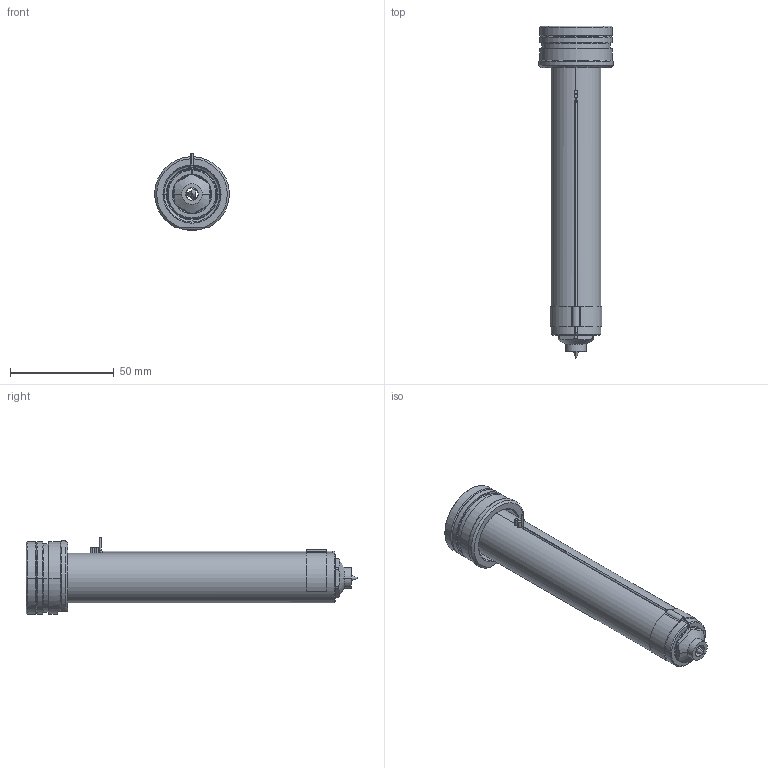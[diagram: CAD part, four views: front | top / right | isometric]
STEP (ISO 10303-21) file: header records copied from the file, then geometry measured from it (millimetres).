
FILE_DESCRIPTION((''),'2;1');
FILE_NAME('EO06_PG-BL_WR_140_SW','2024-02-19T11:04:07',('sundharh'),(''),'CREO PARAMETRIC BY PTC INC, 2023154','CREO PARAMETRIC BY PTC INC, 2023154','');
FILE_SCHEMA(('CONFIG_CONTROL_DESIGN'));
Length unit declared in the file: millimetre
Products named in the file (1): EO06_PG-BL_WR_140_SW
Bounding box: 35.93 x 160 x 37 mm (x, y, z)
Volume: 72900.6 mm3; surface area: 20900 mm2
Topology: 2 solids, 2 shells, 205 faces, 552 edges, 340 vertices
Faces by surface type: cylinder 83, plane 55, cone 38, torus 21, bspline 6, sphere 2
Entity records: 7497 total; most frequent: CARTESIAN_POINT 2263, DIRECTION 1151, ORIENTED_EDGE 1092, EDGE_CURVE 546, AXIS2_PLACEMENT_3D 484, VERTEX_POINT 340, CIRCLE 285, EDGE_LOOP 220
